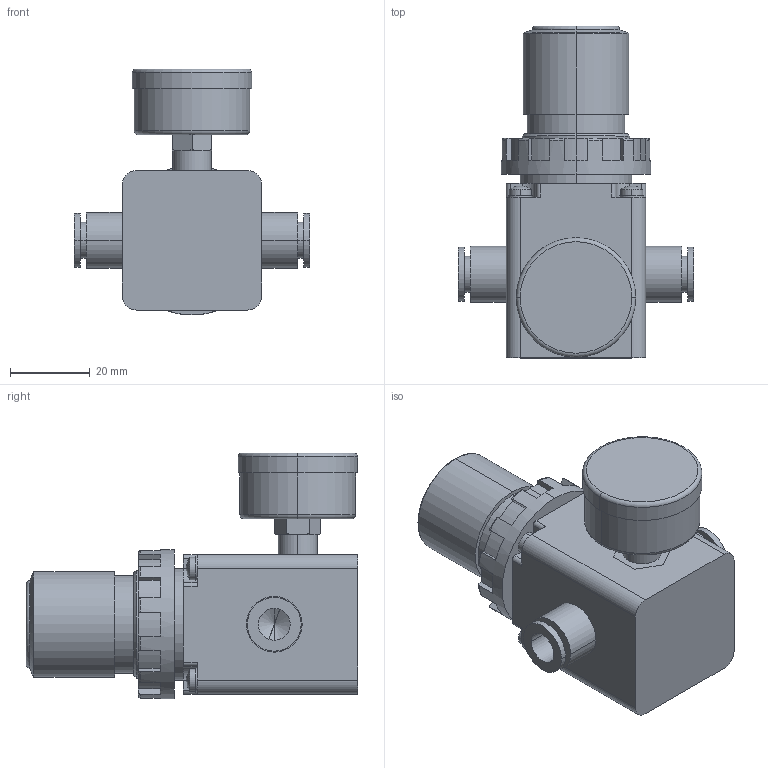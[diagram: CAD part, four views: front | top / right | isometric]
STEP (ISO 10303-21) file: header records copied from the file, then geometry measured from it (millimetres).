
FILE_DESCRIPTION (( 'STEP AP203' ), '1' );
FILE_NAME ('RV100-C08M.STEP', '2021-09-22T11:38:28', ( '' ), ( '' ), 'SwSTEP 2.0', 'SolidWorks 2019', '' );
FILE_SCHEMA (( 'CONFIG_CONTROL_DESIGN' ));
Length unit declared in the file: millimetre
Products named in the file (1): RV100-C08M
Bounding box: 59 x 83.3 x 61.75 mm (x, y, z)
Volume: 90094.3 mm3; surface area: 22322.8 mm2
Topology: 6 solids, 6 shells, 272 faces, 659 edges, 424 vertices
Faces by surface type: plane 117, cylinder 97, cone 26, torus 24, sphere 8
Entity records: 8496 total; most frequent: CARTESIAN_POINT 1844, DIRECTION 1463, ORIENTED_EDGE 1310, EDGE_CURVE 655, AXIS2_PLACEMENT_3D 571, VERTEX_POINT 424, VECTOR 321, LINE 321
